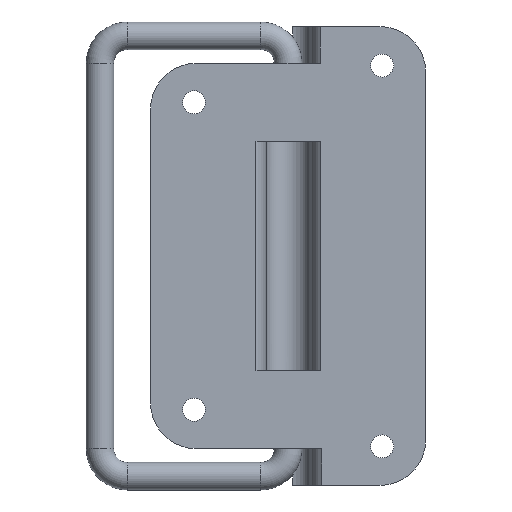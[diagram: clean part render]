
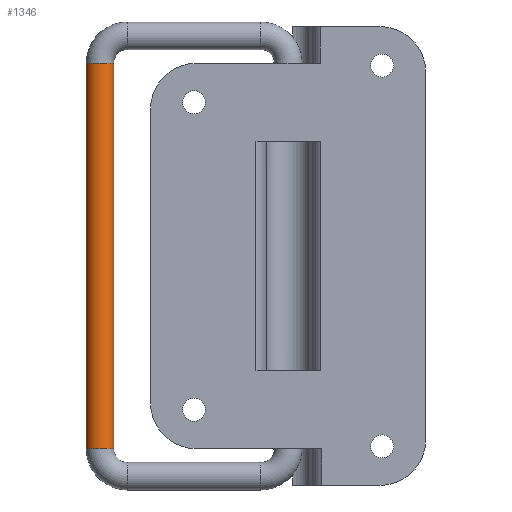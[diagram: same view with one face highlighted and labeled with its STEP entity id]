
A CAD part, front view. The second image highlights one B-rep face of the part: STEP entity #1346.
In plain terms, the highlighted cylindrical face has radius 3 mm (diameter 6 mm), a partial arc.
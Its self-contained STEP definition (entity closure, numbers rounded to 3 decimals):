
#6 = DIRECTION ( 'NONE',  ( 1., 0., 0. ) ) ;
#102 = EDGE_CURVE ( 'NONE', #447, #812, #1173, .T. ) ;
#157 = DIRECTION ( 'NONE',  ( 1., 0., 0. ) ) ;
#203 = CARTESIAN_POINT ( 'NONE',  ( -42., 0., -41. ) ) ;
#379 = FACE_OUTER_BOUND ( 'NONE', #1871, .T. ) ;
#380 = AXIS2_PLACEMENT_3D ( 'NONE', #203, #157, #1603 ) ;
#431 = CARTESIAN_POINT ( 'NONE',  ( -42., 0., -44. ) ) ;
#447 = VERTEX_POINT ( 'NONE', #2188 ) ;
#469 = EDGE_CURVE ( 'NONE', #1795, #812, #793, .T. ) ;
#611 = LINE ( 'NONE', #431, #767 ) ;
#613 = DIRECTION ( 'NONE',  ( 1., 0., 0. ) ) ;
#664 = CARTESIAN_POINT ( 'NONE',  ( -42., 0., -44. ) ) ;
#767 = VECTOR ( 'NONE', #1891, 1000. ) ;
#774 = EDGE_CURVE ( 'NONE', #2080, #1795, #2311, .T. ) ;
#793 = LINE ( 'NONE', #965, #1935 ) ;
#812 = VERTEX_POINT ( 'NONE', #1641 ) ;
#839 = DIRECTION ( 'NONE',  ( 1., 0., 0. ) ) ;
#965 = CARTESIAN_POINT ( 'NONE',  ( -42., 0., -38. ) ) ;
#1146 = ORIENTED_EDGE ( 'NONE', *, *, #1492, .F. ) ;
#1156 = CARTESIAN_POINT ( 'NONE',  ( 42., 0., -41. ) ) ;
#1173 = CIRCLE ( 'NONE', #2120, 3. ) ;
#1326 = ORIENTED_EDGE ( 'NONE', *, *, #774, .T. ) ;
#1346 = ADVANCED_FACE ( 'NONE', ( #379 ), #1778, .T. ) ;
#1492 = EDGE_CURVE ( 'NONE', #2080, #447, #611, .T. ) ;
#1531 = DIRECTION ( 'NONE',  ( 0., 0., -1. ) ) ;
#1603 = DIRECTION ( 'NONE',  ( 0., 0., -1. ) ) ;
#1613 = CARTESIAN_POINT ( 'NONE',  ( -42., 0., -38. ) ) ;
#1641 = CARTESIAN_POINT ( 'NONE',  ( 42., 0., -38. ) ) ;
#1652 = ORIENTED_EDGE ( 'NONE', *, *, #469, .T. ) ;
#1778 = CYLINDRICAL_SURFACE ( 'NONE', #380, 3. ) ;
#1795 = VERTEX_POINT ( 'NONE', #1613 ) ;
#1799 = ORIENTED_EDGE ( 'NONE', *, *, #102, .F. ) ;
#1803 = DIRECTION ( 'NONE',  ( 0., 0., -1. ) ) ;
#1871 = EDGE_LOOP ( 'NONE', ( #1326, #1652, #1799, #1146 ) ) ;
#1891 = DIRECTION ( 'NONE',  ( 1., 0., 0. ) ) ;
#1935 = VECTOR ( 'NONE', #613, 1000. ) ;
#2034 = CARTESIAN_POINT ( 'NONE',  ( -42., 0., -41. ) ) ;
#2080 = VERTEX_POINT ( 'NONE', #664 ) ;
#2120 = AXIS2_PLACEMENT_3D ( 'NONE', #1156, #839, #1531 ) ;
#2124 = AXIS2_PLACEMENT_3D ( 'NONE', #2034, #6, #1803 ) ;
#2188 = CARTESIAN_POINT ( 'NONE',  ( 42., 0., -44. ) ) ;
#2311 = CIRCLE ( 'NONE', #2124, 3. ) ;
